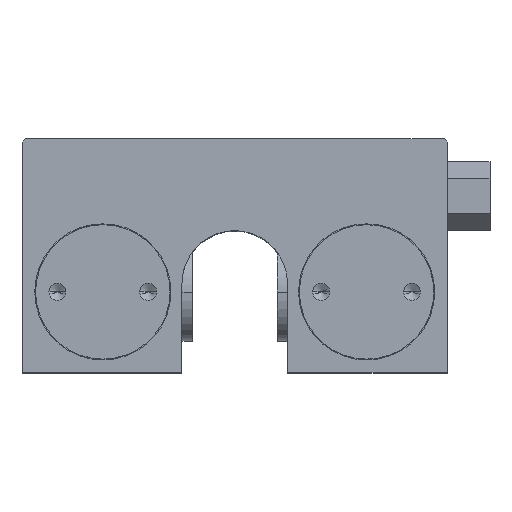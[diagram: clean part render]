
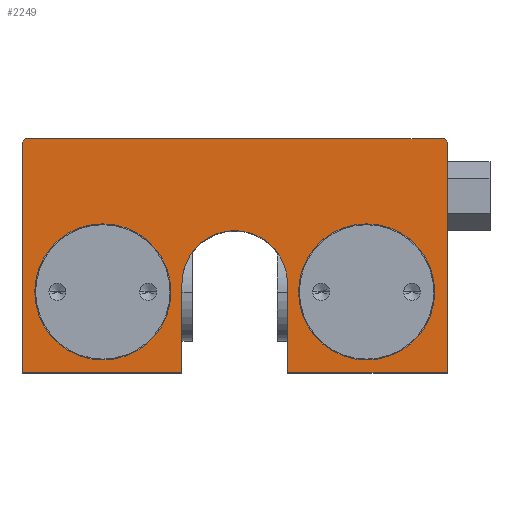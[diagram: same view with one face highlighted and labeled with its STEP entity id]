
A CAD part, top view. The second image highlights one B-rep face of the part: STEP entity #2249.
In plain terms, the highlighted planar face has unit normal (0, 0, 1).
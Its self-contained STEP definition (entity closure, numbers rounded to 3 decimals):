
#905 = EDGE_CURVE( '', #1041, #923, #2655, .T. );
#917 = VERTEX_POINT( '', #2667 );
#923 = VERTEX_POINT( '', #2673 );
#1007 = EDGE_CURVE( '', #917, #1941, #2763, .T. );
#1015 = EDGE_CURVE( '', #1421, #1811, #2771, .T. );
#1039 = EDGE_CURVE( '', #1811, #1421, #2798, .T. );
#1041 = VERTEX_POINT( '', #2800 );
#1045 = EDGE_CURVE( '', #1371, #2237, #2804, .T. );
#1187 = VERTEX_POINT( '', #2970 );
#1239 = EDGE_CURVE( '', #1323, #1371, #3033, .T. );
#1297 = VERTEX_POINT( '', #3102 );
#1323 = VERTEX_POINT( '', #3132 );
#1371 = VERTEX_POINT( '', #3186 );
#1421 = VERTEX_POINT( '', #3243 );
#1477 = VERTEX_POINT( '', #3305 );
#1663 = VERTEX_POINT( '', #3526 );
#1695 = EDGE_CURVE( '', #1663, #1477, #3561, .T. );
#1789 = EDGE_CURVE( '', #1187, #2397, #3662, .T. );
#1811 = VERTEX_POINT( '', #3685 );
#1833 = EDGE_CURVE( '', #1297, #1041, #3708, .T. );
#1941 = VERTEX_POINT( '', #3824 );
#2057 = EDGE_CURVE( '', #1477, #1297, #3955, .T. );
#2093 = EDGE_CURVE( '', #1941, #1323, #3995, .T. );
#2119 = EDGE_CURVE( '', #2397, #1187, #4025, .T. );
#2223 = EDGE_CURVE( '', #923, #917, #4148, .T. );
#2237 = VERTEX_POINT( '', #4164 );
#2249 = ADVANCED_FACE( '', ( #4176, #4177, #4178 ), #4179, .F. );
#2397 = VERTEX_POINT( '', #4343 );
#2471 = EDGE_CURVE( '', #2237, #1663, #4425, .T. );
#2655 = LINE( '', #4660, #4661 );
#2667 = CARTESIAN_POINT( '', ( 6.2, 10.5, 18.5 ) );
#2673 = CARTESIAN_POINT( '', ( 6.2, 0., 18.5 ) );
#2763 = CIRCLE( '', #4849, 6.2 );
#2771 = CIRCLE( '', #4898, 8. );
#2798 = CIRCLE( '', #4954, 8. );
#2800 = CARTESIAN_POINT( '', ( 25., 0., 18.5 ) );
#2804 = LINE( '', #4961, #4962 );
#2970 = CARTESIAN_POINT( '', ( -7.5, 9.5, 18.5 ) );
#3033 = LINE( '', #5306, #5307 );
#3102 = CARTESIAN_POINT( '', ( 25., 27.1, 18.5 ) );
#3132 = CARTESIAN_POINT( '', ( -6.2, 0., 18.5 ) );
#3186 = CARTESIAN_POINT( '', ( -25., 0., 18.5 ) );
#3243 = CARTESIAN_POINT( '', ( 23.5, 9.5, 18.5 ) );
#3305 = CARTESIAN_POINT( '', ( 24.6, 27.5, 18.5 ) );
#3526 = CARTESIAN_POINT( '', ( -24.6, 27.5, 18.5 ) );
#3561 = LINE( '', #6015, #6016 );
#3662 = CIRCLE( '', #6163, 8. );
#3685 = CARTESIAN_POINT( '', ( 7.5, 9.5, 18.5 ) );
#3708 = LINE( '', #6216, #6217 );
#3824 = CARTESIAN_POINT( '', ( -6.2, 10.5, 18.5 ) );
#3955 = LINE( '', #6562, #6563 );
#3995 = LINE( '', #6612, #6613 );
#4025 = CIRCLE( '', #6655, 8. );
#4148 = LINE( '', #6816, #6817 );
#4164 = CARTESIAN_POINT( '', ( -25., 27.1, 18.5 ) );
#4176 = FACE_BOUND( '', #6857, .T. );
#4177 = FACE_BOUND( '', #6858, .T. );
#4178 = FACE_OUTER_BOUND( '', #6859, .T. );
#4179 = PLANE( '', #6860 );
#4343 = CARTESIAN_POINT( '', ( -23.5, 9.5, 18.5 ) );
#4425 = LINE( '', #7190, #7191 );
#4660 = CARTESIAN_POINT( '', ( 25., 0., 18.5 ) );
#4661 = VECTOR( '', #7439, 1. );
#4849 = AXIS2_PLACEMENT_3D( '', #7528, #7529, #7530 );
#4898 = AXIS2_PLACEMENT_3D( '', #7532, #7533, #7534 );
#4954 = AXIS2_PLACEMENT_3D( '', #7559, #7560, #7561 );
#4961 = CARTESIAN_POINT( '', ( -25., 0., 18.5 ) );
#4962 = VECTOR( '', #7562, 1. );
#5306 = CARTESIAN_POINT( '', ( -6.2, 0., 18.5 ) );
#5307 = VECTOR( '', #7851, 1. );
#6015 = CARTESIAN_POINT( '', ( -24.6, 27.5, 18.5 ) );
#6016 = VECTOR( '', #8556, 1. );
#6163 = AXIS2_PLACEMENT_3D( '', #8651, #8652, #8653 );
#6216 = CARTESIAN_POINT( '', ( 25., 27.1, 18.5 ) );
#6217 = VECTOR( '', #8683, 1. );
#6562 = CARTESIAN_POINT( '', ( 24.6, 27.5, 18.5 ) );
#6563 = VECTOR( '', #8956, 1. );
#6612 = CARTESIAN_POINT( '', ( -6.2, 10.5, 18.5 ) );
#6613 = VECTOR( '', #8998, 1. );
#6655 = AXIS2_PLACEMENT_3D( '', #9038, #9039, #9040 );
#6816 = CARTESIAN_POINT( '', ( 6.2, 0., 18.5 ) );
#6817 = VECTOR( '', #9185, 1. );
#6857 = EDGE_LOOP( '', ( #9216, #9217 ) );
#6858 = EDGE_LOOP( '', ( #9218, #9219 ) );
#6859 = EDGE_LOOP( '', ( #9220, #9221, #9222, #9223, #9224, #9225, #9226, #9227, #9228, #9229 ) );
#6860 = AXIS2_PLACEMENT_3D( '', #9230, #9231, #9232 );
#7190 = CARTESIAN_POINT( '', ( -25., 27.1, 18.5 ) );
#7191 = VECTOR( '', #9502, 1. );
#7439 = DIRECTION( '', ( -1., 0., 0. ) );
#7528 = CARTESIAN_POINT( '', ( 0., 10.5, 18.5 ) );
#7529 = DIRECTION( '', ( 0., 0., 1. ) );
#7530 = DIRECTION( '', ( 1., 0., 0. ) );
#7532 = CARTESIAN_POINT( '', ( 15.5, 9.5, 18.5 ) );
#7533 = DIRECTION( '', ( 0., 0., -1. ) );
#7534 = DIRECTION( '', ( -1., 0., 0. ) );
#7559 = CARTESIAN_POINT( '', ( 15.5, 9.5, 18.5 ) );
#7560 = DIRECTION( '', ( 0., 0., -1. ) );
#7561 = DIRECTION( '', ( -1., 0., 0. ) );
#7562 = DIRECTION( '', ( 0., 1., 0. ) );
#7851 = DIRECTION( '', ( -1., 0., 0. ) );
#8556 = DIRECTION( '', ( 1., 0., 0. ) );
#8651 = CARTESIAN_POINT( '', ( -15.5, 9.5, 18.5 ) );
#8652 = DIRECTION( '', ( 0., 0., -1. ) );
#8653 = DIRECTION( '', ( -1., 0., 0. ) );
#8683 = DIRECTION( '', ( 0., -1., 0. ) );
#8956 = DIRECTION( '', ( 0.707, -0.707, 0. ) );
#8998 = DIRECTION( '', ( 0., -1., 0. ) );
#9038 = CARTESIAN_POINT( '', ( -15.5, 9.5, 18.5 ) );
#9039 = DIRECTION( '', ( 0., 0., -1. ) );
#9040 = DIRECTION( '', ( -1., 0., 0. ) );
#9185 = DIRECTION( '', ( 0., 1., 0. ) );
#9216 = ORIENTED_EDGE( '', *, *, #1789, .T. );
#9217 = ORIENTED_EDGE( '', *, *, #2119, .T. );
#9218 = ORIENTED_EDGE( '', *, *, #1015, .T. );
#9219 = ORIENTED_EDGE( '', *, *, #1039, .T. );
#9220 = ORIENTED_EDGE( '', *, *, #905, .F. );
#9221 = ORIENTED_EDGE( '', *, *, #1833, .F. );
#9222 = ORIENTED_EDGE( '', *, *, #2057, .F. );
#9223 = ORIENTED_EDGE( '', *, *, #1695, .F. );
#9224 = ORIENTED_EDGE( '', *, *, #2471, .F. );
#9225 = ORIENTED_EDGE( '', *, *, #1045, .F. );
#9226 = ORIENTED_EDGE( '', *, *, #1239, .F. );
#9227 = ORIENTED_EDGE( '', *, *, #2093, .F. );
#9228 = ORIENTED_EDGE( '', *, *, #1007, .F. );
#9229 = ORIENTED_EDGE( '', *, *, #2223, .F. );
#9230 = CARTESIAN_POINT( '', ( 0., 0., 18.5 ) );
#9231 = DIRECTION( '', ( 0., 0., -1. ) );
#9232 = DIRECTION( '', ( -1., 0., 0. ) );
#9502 = DIRECTION( '', ( 0.707, 0.707, 0. ) );
